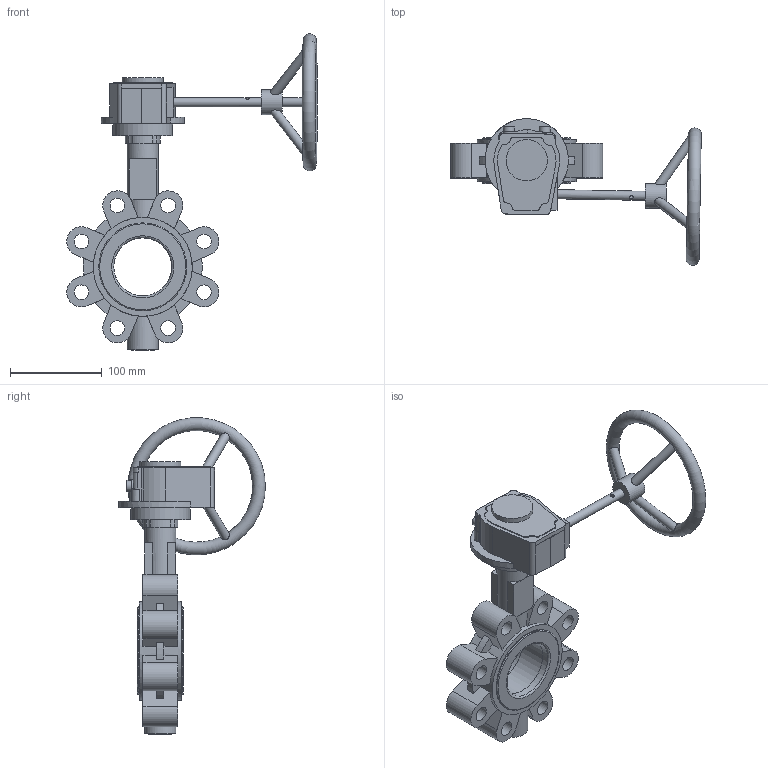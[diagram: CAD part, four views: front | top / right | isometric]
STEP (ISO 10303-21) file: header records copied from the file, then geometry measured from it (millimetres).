
FILE_DESCRIPTION (( 'STEP AP203' ), '1' );
FILE_NAME ('2502 LT型中线衬胶带销 手动头蝶阀 DN65 PN25 CD0309055.STEP', '2026-03-25T01:47:23', ( '' ), ( '' ), 'SwSTEP 2.0', 'SolidWorks 2018', '' );
FILE_SCHEMA (( 'CONFIG_CONTROL_DESIGN' ));
Length unit declared in the file: millimetre
Products named in the file (5): 2502 LT型中线衬胶带销 手动头蝶阀 DN65 PN25 CD0309055; G12L忒雄芛 潠趙; GALA-D65-04AZC-00; DIN908 塞堵M20×1.5; GALA-D65-01LC25-00
Assembly tree (4 placements, depth 2):
  2502 LT型中线衬胶带销 手动头蝶阀 DN65 PN25 CD0309055
    GALA-D65-01LC25-00
    GALA-D65-04AZC-00
    DIN908 塞堵M20×1.5
    G12L忒雄芛 潠趙
Bounding box: 273.47 x 160.15 x 345.4 mm (x, y, z)
Volume: 1069769.4 mm3; surface area: 207960 mm2
Topology: 5 solids, 10 shells, 303 faces, 800 edges, 527 vertices
Faces by surface type: plane 142, cylinder 137, torus 9, cone 7, bspline 6, sphere 2
Full cylindrical faces by diameter (mm): 4 x1, 7 x4, 10 x5, 12 x2, 16 x8, 20 x1, 25 x1, 27 x2, 31.6 x1, 34 x3, 45 x1, 63.267 x1, 65 x1, 72 x2, 91 x1, 96 x4, 108 x2
Entity records: 10849 total; most frequent: CARTESIAN_POINT 3207, ORIENTED_EDGE 1458, DIRECTION 1452, EDGE_CURVE 729, AXIS2_PLACEMENT_3D 552, VERTEX_POINT 511, EDGE_LOOP 404, FACE_OUTER_BOUND 350
